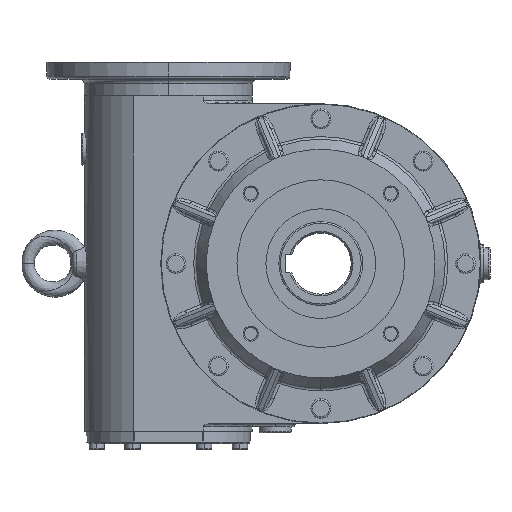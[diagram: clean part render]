
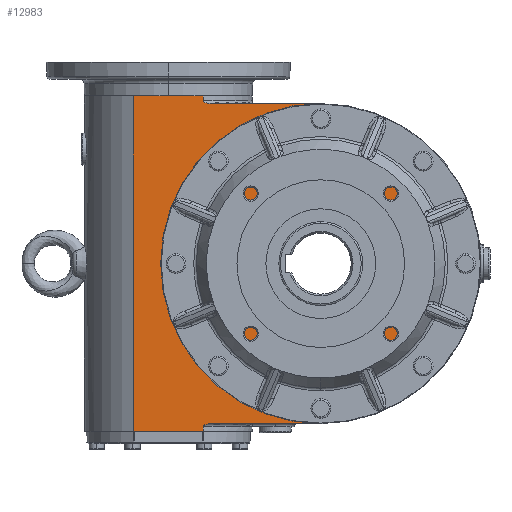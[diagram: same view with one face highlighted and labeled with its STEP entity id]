
A CAD part, left-side view. The second image highlights one B-rep face of the part: STEP entity #12983.
In plain terms, the highlighted planar face has unit normal (-1, 0, 0).
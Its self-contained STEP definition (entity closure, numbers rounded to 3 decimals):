
#12847 = VERTEX_POINT ( 'NONE', #79348 ) ;
#12898 = EDGE_CURVE ( 'NONE', #12847, #12899, #79429, .T. ) ;
#12899 = VERTEX_POINT ( 'NONE', #79424 ) ;
#12903 = ORIENTED_EDGE ( 'NONE', *, *, #12904, .F. ) ;
#12904 = EDGE_CURVE ( 'NONE', #12905, #12906, #79486, .T. ) ;
#12905 = VERTEX_POINT ( 'NONE', #79481 ) ;
#12906 = VERTEX_POINT ( 'NONE', #79480 ) ;
#12907 = ORIENTED_EDGE ( 'NONE', *, *, #12961, .F. ) ;
#12909 = EDGE_CURVE ( 'NONE', #12934, #12935, #79479, .T. ) ;
#12934 = VERTEX_POINT ( 'NONE', #79492 ) ;
#12935 = VERTEX_POINT ( 'NONE', #79557 ) ;
#12947 = EDGE_CURVE ( 'NONE', #12948, #12974, #79531, .T. ) ;
#12948 = VERTEX_POINT ( 'NONE', #79527 ) ;
#12949 = ORIENTED_EDGE ( 'NONE', *, *, #12950, .T. ) ;
#12950 = EDGE_CURVE ( 'NONE', #12948, #12951, #79593, .T. ) ;
#12951 = VERTEX_POINT ( 'NONE', #79592 ) ;
#12952 = ORIENTED_EDGE ( 'NONE', *, *, #12953, .F. ) ;
#12953 = EDGE_CURVE ( 'NONE', #12906, #12951, #79591, .T. ) ;
#12954 = EDGE_LOOP ( 'NONE', ( #12955, #12957 ) ) ;
#12955 = ORIENTED_EDGE ( 'NONE', *, *, #12956, .F. ) ;
#12956 = EDGE_CURVE ( 'NONE', #12899, #12847, #79570, .T. ) ;
#12957 = ORIENTED_EDGE ( 'NONE', *, *, #12898, .F. ) ;
#12961 = EDGE_CURVE ( 'NONE', #12962, #12905, #79564, .T. ) ;
#12962 = VERTEX_POINT ( 'NONE', #79624 ) ;
#12963 = ORIENTED_EDGE ( 'NONE', *, *, #12964, .T. ) ;
#12964 = EDGE_CURVE ( 'NONE', #12962, #12965, #79622, .T. ) ;
#12965 = VERTEX_POINT ( 'NONE', #79623 ) ;
#12966 = ORIENTED_EDGE ( 'NONE', *, *, #12967, .F. ) ;
#12967 = EDGE_CURVE ( 'NONE', #12935, #12965, #79621, .T. ) ;
#12968 = ORIENTED_EDGE ( 'NONE', *, *, #12909, .F. ) ;
#12969 = ORIENTED_EDGE ( 'NONE', *, *, #12970, .T. ) ;
#12970 = EDGE_CURVE ( 'NONE', #12934, #12971, #79603, .T. ) ;
#12971 = VERTEX_POINT ( 'NONE', #79599 ) ;
#12972 = ORIENTED_EDGE ( 'NONE', *, *, #12973, .T. ) ;
#12973 = EDGE_CURVE ( 'NONE', #12971, #12974, #79598, .T. ) ;
#12974 = VERTEX_POINT ( 'NONE', #79594 ) ;
#12975 = ORIENTED_EDGE ( 'NONE', *, *, #12947, .F. ) ;
#12983 = ADVANCED_FACE ( 'NONE', ( #79647, #79646 ), #79645, .F. ) ;
#12984 = EDGE_LOOP ( 'NONE', ( #12903, #12907, #12963, #12966, #12968, #12969, #12972, #12975, #12949, #12952 ) ) ;
#79048 = DIRECTION ( 'NONE',  ( 0., -1., 0. ) ) ;
#79348 = CARTESIAN_POINT ( 'NONE',  ( -50., 0., 36. ) ) ;
#79424 = CARTESIAN_POINT ( 'NONE',  ( -50., 0., -36. ) ) ;
#79425 = DIRECTION ( 'NONE',  ( 0., 0., -1. ) ) ;
#79426 = DIRECTION ( 'NONE',  ( -1., 0., 0. ) ) ;
#79427 = CARTESIAN_POINT ( 'NONE',  ( -50., 0., 0. ) ) ;
#79428 = AXIS2_PLACEMENT_3D ( 'NONE', #79427, #79426, #79425 ) ;
#79429 = CIRCLE ( 'NONE', #79428, 36. ) ;
#79476 = DIRECTION ( 'NONE',  ( 0., -1., 0. ) ) ;
#79477 = VECTOR ( 'NONE', #79476, 1000. ) ;
#79478 = CARTESIAN_POINT ( 'NONE',  ( -50., 122.913, 110. ) ) ;
#79479 = LINE ( 'NONE', #79478, #79477 ) ;
#79480 = CARTESIAN_POINT ( 'NONE',  ( -50., 0., -105. ) ) ;
#79481 = CARTESIAN_POINT ( 'NONE',  ( -50., 0., 105. ) ) ;
#79482 = DIRECTION ( 'NONE',  ( 0., 0., -1. ) ) ;
#79483 = DIRECTION ( 'NONE',  ( 1., 0., 0. ) ) ;
#79484 = CARTESIAN_POINT ( 'NONE',  ( -50., 0., 0. ) ) ;
#79485 = AXIS2_PLACEMENT_3D ( 'NONE', #79484, #79483, #79482 ) ;
#79486 = CIRCLE ( 'NONE', #79485, 105. ) ;
#79492 = CARTESIAN_POINT ( 'NONE',  ( -50., 122.913, 110. ) ) ;
#79527 = CARTESIAN_POINT ( 'NONE',  ( -50., 77.087, -107. ) ) ;
#79528 = DIRECTION ( 'NONE',  ( 0., 0., -1. ) ) ;
#79529 = VECTOR ( 'NONE', #79528, 1000. ) ;
#79530 = CARTESIAN_POINT ( 'NONE',  ( -50., 77.087, 110. ) ) ;
#79531 = LINE ( 'NONE', #79530, #79529 ) ;
#79557 = CARTESIAN_POINT ( 'NONE',  ( -50., 77.087, 110. ) ) ;
#79558 = VECTOR ( 'NONE', #79048, 1000. ) ;
#79559 = CARTESIAN_POINT ( 'NONE',  ( -50., 100., 105. ) ) ;
#79564 = LINE ( 'NONE', #79559, #79558 ) ;
#79566 = DIRECTION ( 'NONE',  ( 0., 0., -1. ) ) ;
#79567 = DIRECTION ( 'NONE',  ( -1., 0., 0. ) ) ;
#79568 = CARTESIAN_POINT ( 'NONE',  ( -50., 0., 0. ) ) ;
#79569 = AXIS2_PLACEMENT_3D ( 'NONE', #79568, #79567, #79566 ) ;
#79570 = CIRCLE ( 'NONE', #79569, 36. ) ;
#79572 = CARTESIAN_POINT ( 'NONE',  ( -50., 72.632, -105. ) ) ;
#79573 = CARTESIAN_POINT ( 'NONE',  ( -50., 73.07, -105. ) ) ;
#79574 = CARTESIAN_POINT ( 'NONE',  ( -50., 73.502, -105.032 ) ) ;
#79575 = CARTESIAN_POINT ( 'NONE',  ( -50., 74.358, -105.159 ) ) ;
#79576 = CARTESIAN_POINT ( 'NONE',  ( -50., 74.783, -105.254 ) ) ;
#79577 = CARTESIAN_POINT ( 'NONE',  ( -50., 75.407, -105.459 ) ) ;
#79578 = CARTESIAN_POINT ( 'NONE',  ( -50., 75.611, -105.537 ) ) ;
#79579 = CARTESIAN_POINT ( 'NONE',  ( -50., 76.006, -105.719 ) ) ;
#79580 = CARTESIAN_POINT ( 'NONE',  ( -50., 76.198, -105.823 ) ) ;
#79581 = CARTESIAN_POINT ( 'NONE',  ( -50., 76.56, -106.073 ) ) ;
#79582 = CARTESIAN_POINT ( 'NONE',  ( -50., 76.727, -106.216 ) ) ;
#79583 = CARTESIAN_POINT ( 'NONE',  ( -50., 76.928, -106.48 ) ) ;
#79584 = CARTESIAN_POINT ( 'NONE',  ( -50., 76.984, -106.574 ) ) ;
#79585 = CARTESIAN_POINT ( 'NONE',  ( -50., 77.065, -106.781 ) ) ;
#79586 = CARTESIAN_POINT ( 'NONE',  ( -50., 77.087, -106.889 ) ) ;
#79587 = CARTESIAN_POINT ( 'NONE',  ( -50., 77.087, -107. ) ) ;
#79588 = DIRECTION ( 'NONE',  ( 0., 1., 0. ) ) ;
#79589 = VECTOR ( 'NONE', #79588, 1000. ) ;
#79590 = CARTESIAN_POINT ( 'NONE',  ( -50., 100., -105. ) ) ;
#79591 = LINE ( 'NONE', #79590, #79589 ) ;
#79592 = CARTESIAN_POINT ( 'NONE',  ( -50., 72.632, -105. ) ) ;
#79593 = B_SPLINE_CURVE_WITH_KNOTS ( 'NONE', 3,
 ( #79587, #79586, #79585, #79584, #79583, #79582, #79581, #79580, #79579, #79578, #79577, #79576, #79575, #79574, #79573, #79572 ),
 .UNSPECIFIED., .F., .F.,
 ( 4, 2, 2, 2, 2, 2, 2, 4 ),
 ( 0., 0., 0.001, 0.001, 0.002, 0.003, 0.004, 0.005 ),
 .UNSPECIFIED. ) ;
#79594 = CARTESIAN_POINT ( 'NONE',  ( -50., 77.087, -110. ) ) ;
#79595 = DIRECTION ( 'NONE',  ( 0., -1., 0. ) ) ;
#79596 = VECTOR ( 'NONE', #79595, 1000. ) ;
#79597 = CARTESIAN_POINT ( 'NONE',  ( -50., 122.913, -110. ) ) ;
#79598 = LINE ( 'NONE', #79597, #79596 ) ;
#79599 = CARTESIAN_POINT ( 'NONE',  ( -50., 122.913, -110. ) ) ;
#79600 = DIRECTION ( 'NONE',  ( 0., 0., -1. ) ) ;
#79601 = VECTOR ( 'NONE', #79600, 1000. ) ;
#79602 = CARTESIAN_POINT ( 'NONE',  ( -50., 122.913, 110. ) ) ;
#79603 = LINE ( 'NONE', #79602, #79601 ) ;
#79604 = CARTESIAN_POINT ( 'NONE',  ( -50., 77.087, 107. ) ) ;
#79605 = CARTESIAN_POINT ( 'NONE',  ( -50., 77.087, 106.776 ) ) ;
#79606 = CARTESIAN_POINT ( 'NONE',  ( -50., 76.994, 106.567 ) ) ;
#79607 = CARTESIAN_POINT ( 'NONE',  ( -50., 76.725, 106.214 ) ) ;
#79608 = CARTESIAN_POINT ( 'NONE',  ( -50., 76.558, 106.072 ) ) ;
#79609 = CARTESIAN_POINT ( 'NONE',  ( -50., 76.199, 105.824 ) ) ;
#79610 = CARTESIAN_POINT ( 'NONE',  ( -50., 76.005, 105.718 ) ) ;
#79611 = CARTESIAN_POINT ( 'NONE',  ( -50., 75.606, 105.535 ) ) ;
#79612 = CARTESIAN_POINT ( 'NONE',  ( -50., 75.4, 105.456 ) ) ;
#79613 = CARTESIAN_POINT ( 'NONE',  ( -50., 74.778, 105.253 ) ) ;
#79614 = CARTESIAN_POINT ( 'NONE',  ( -50., 74.356, 105.159 ) ) ;
#79615 = CARTESIAN_POINT ( 'NONE',  ( -50., 73.502, 105.032 ) ) ;
#79616 = CARTESIAN_POINT ( 'NONE',  ( -50., 73.07, 105. ) ) ;
#79617 = CARTESIAN_POINT ( 'NONE',  ( -50., 72.632, 105. ) ) ;
#79618 = DIRECTION ( 'NONE',  ( 0., 0., -1. ) ) ;
#79619 = VECTOR ( 'NONE', #79618, 1000. ) ;
#79620 = CARTESIAN_POINT ( 'NONE',  ( -50., 77.087, 110. ) ) ;
#79621 = LINE ( 'NONE', #79620, #79619 ) ;
#79622 = B_SPLINE_CURVE_WITH_KNOTS ( 'NONE', 3,
 ( #79617, #79616, #79615, #79614, #79613, #79612, #79611, #79610, #79609, #79608, #79607, #79606, #79605, #79604 ),
 .UNSPECIFIED., .F., .F.,
 ( 4, 2, 2, 2, 2, 2, 4 ),
 ( 0., 0.001, 0.003, 0.003, 0.004, 0.005, 0.005 ),
 .UNSPECIFIED. ) ;
#79623 = CARTESIAN_POINT ( 'NONE',  ( -50., 77.087, 107. ) ) ;
#79624 = CARTESIAN_POINT ( 'NONE',  ( -50., 72.632, 105. ) ) ;
#79641 = DIRECTION ( 'NONE',  ( 0., 0., -1. ) ) ;
#79642 = DIRECTION ( 'NONE',  ( 1., 0., 0. ) ) ;
#79643 = CARTESIAN_POINT ( 'NONE',  ( -50., 0., 0. ) ) ;
#79644 = AXIS2_PLACEMENT_3D ( 'NONE', #79643, #79642, #79641 ) ;
#79645 = PLANE ( 'NONE',  #79644 ) ;
#79646 = FACE_BOUND ( 'NONE', #12954, .T. ) ;
#79647 = FACE_OUTER_BOUND ( 'NONE', #12984, .T. ) ;
